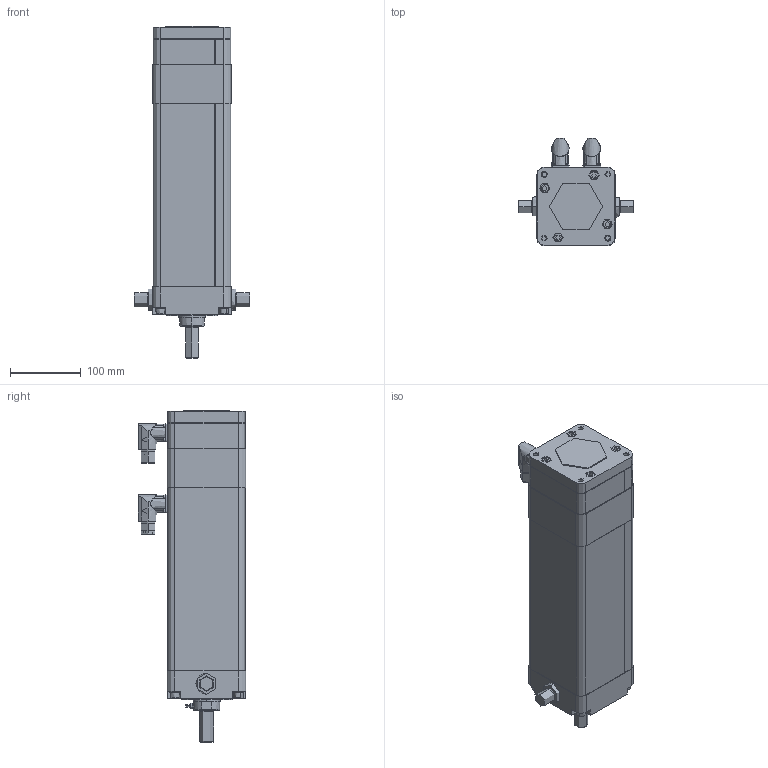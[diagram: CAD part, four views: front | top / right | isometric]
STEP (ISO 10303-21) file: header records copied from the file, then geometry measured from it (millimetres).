
FILE_DESCRIPTION((''),'2;1');
FILE_NAME('MPAI-A4150CM32B_ASM','2009-12-11T',('ALS'),('Rockwell Automation'),'PRO/ENGINEER BY PARAMETRIC TECHNOLOGY CORPORATION, 2004490','PRO/ENGINEER BY PARAMETRIC TECHNOLOGY CORPORATION, 2004490','');
FILE_SCHEMA(('CONFIG_CONTROL_DESIGN'));
Length unit declared in the file: inch
Products named in the file (5): TEMPJOIN0_27449012-71252-2_; BASE-71252-2_ANY; 71252-2_ANY_ASM; _MPAI-A4150CM32B; MPAI-A4150CM32B_ASM
Assembly tree (4 placements, depth 3):
  MPAI-A4150CM32B_ASM
    71252-2_ANY_ASM
      TEMPJOIN0_27449012-71252-2_
      BASE-71252-2_ANY
    _MPAI-A4150CM32B
Bounding box: 163.13 x 151.48 x 468.04 mm (x, y, z)
Topology: 5 solids, 8 shells, 1062 faces, 2769 edges, 1859 vertices
Faces by surface type: plane 537, cylinder 423, cone 80, torus 22
Entity records: 33759 total; most frequent: CARTESIAN_POINT 6376, DIRECTION 5934, ORIENTED_EDGE 5528, EDGE_CURVE 2768, AXIS2_PLACEMENT_3D 2164, VERTEX_POINT 1873, VECTOR 1606, LINE 1606
